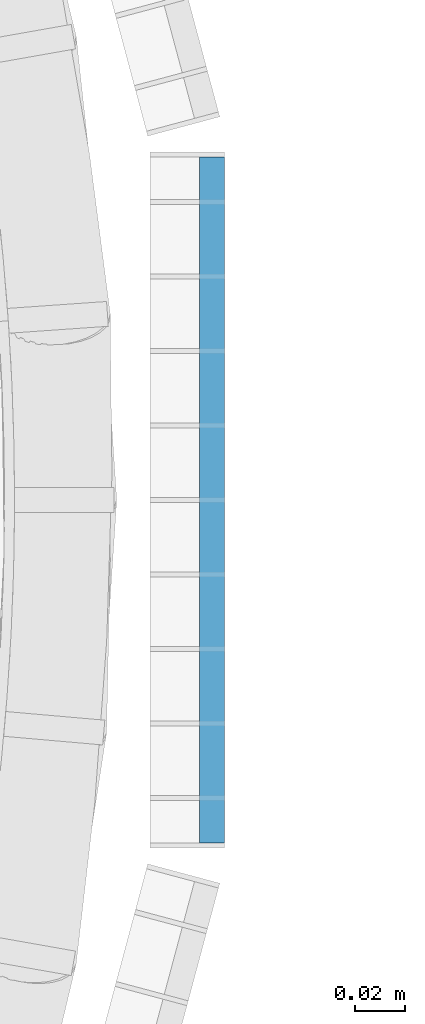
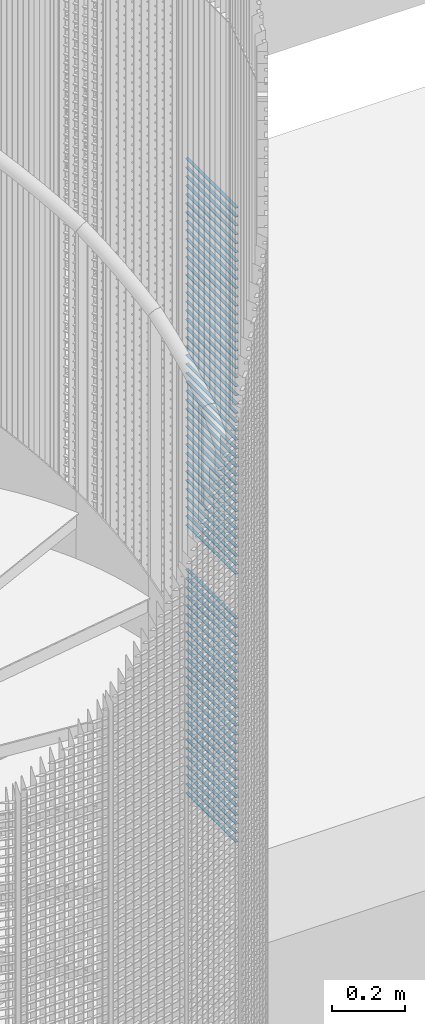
# One storey, part 272 of 1148: 68 beams, 1 element without a shape of its own.
"""IFC2X3 building model written with IfcOpenShell, lengths in millimetres."""

from ifc_helpers import new_model, si_unit, frame, origin_with_axes, origin_2d_with_axis, place, context, subcontext, project, spatial, rectangle, extrude, material, type_object, element, aggregate, save


model = new_model("IFC2X3")

# Units and contexts
model_context = context("Model", 3, precision=1e-05, world=origin_with_axes())
body_context = subcontext(model_context, "Body", "Model", "MODEL_VIEW")
ifc_project = project(units=[si_unit("LENGTHUNIT", "METRE", prefix="MILLI"), si_unit("AREAUNIT", "SQUARE_METRE"), si_unit("VOLUMEUNIT", "CUBIC_METRE"), si_unit("MASSUNIT", "GRAM", prefix="KILO"), si_unit("TIMEUNIT", "SECOND"), si_unit("PLANEANGLEUNIT", "RADIAN"), si_unit("SOLIDANGLEUNIT", "STERADIAN"), si_unit("THERMODYNAMICTEMPERATUREUNIT", "DEGREE_CELSIUS"), si_unit("LUMINOUSINTENSITYUNIT", "LUMEN")], contexts=[model_context])

# Site, building, storey
site_placement = place(None, origin_with_axes())
site = spatial("IfcSite", under=ifc_project, at=site_placement, Name="Undefined", CompositionType="ELEMENT")
building_placement = place(site_placement, origin_with_axes())
building = spatial("IfcBuilding", under=site, at=building_placement, Name="Undefined", CompositionType="ELEMENT")
storey_placement = place(building_placement, origin_with_axes())
storey = spatial("IfcBuildingStorey", under=building, at=storey_placement, Name="Undefined", CompositionType="ELEMENT", Elevation=0.0)

# Assembly, beams
assembly_placement = place(storey_placement, origin_with_axes())
assembly = element("IfcElementAssembly", 1, at=assembly_placement, inside=storey, Name="BORDURE", AssemblyPlace="NOTDEFINED", PredefinedType="NOTDEFINED")
ifc_material = material(Name="STEEL/S235JR")
beam_type = type_object("IfcBeamType", Name="PL2*10", PredefinedType="NOTDEFINED")
beam_1_placement = place(assembly_placement, frame((1113.47999999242, -137.996003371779, 14370.0), z_axis=(1.0, 0.0, 0.0), x_axis=(0.0, 1.0, 0.0)))
beam_1 = element("IfcBeam", 2, at=beam_1_placement, type_object=beam_type, material=ifc_material, Name="ENTRETOISE", context=body_context, shape_type="SweptSolid", body=[
    extrude(rectangle(XDim=2.0, YDim=10.0, at=origin_2d_with_axis()), frame((275.999999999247, 9.09494701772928e-13, 1.53210777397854e-14), z_axis=(-1.0, 0.0, 0.0), x_axis=(0.0, -1.0, 0.0)), (0.0, 0.0, 1.0), 276.0),
])
beam_2_placement = place(assembly_placement, frame((1113.47999999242, -137.996003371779, 14340.0), z_axis=(1.0, 0.0, 0.0), x_axis=(0.0, 1.0, 0.0)))
beam_2 = element("IfcBeam", 3, at=beam_2_placement, type_object=beam_type, material=ifc_material, Name="ENTRETOISE", context=body_context, shape_type="SweptSolid", body=[
    extrude(rectangle(XDim=2.0, YDim=10.0, at=origin_2d_with_axis()), frame((275.999999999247, 9.09494701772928e-13, 1.53210777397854e-14), z_axis=(-1.0, 0.0, 0.0), x_axis=(0.0, -1.0, 0.0)), (0.0, 0.0, 1.0), 276.0),
])
beam_3_placement = place(assembly_placement, frame((1113.47999999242, -137.996003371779, 14310.0), z_axis=(1.0, 0.0, 0.0), x_axis=(0.0, 1.0, 0.0)))
beam_3 = element("IfcBeam", 4, at=beam_3_placement, type_object=beam_type, material=ifc_material, Name="ENTRETOISE", context=body_context, shape_type="SweptSolid", body=[
    extrude(rectangle(XDim=2.0, YDim=10.0, at=origin_2d_with_axis()), frame((275.999999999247, 9.09494701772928e-13, 1.53210777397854e-14), z_axis=(-1.0, 0.0, 0.0), x_axis=(0.0, -1.0, 0.0)), (0.0, 0.0, 1.0), 276.0),
])
beam_4_placement = place(assembly_placement, frame((1113.47999999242, -137.996003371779, 14280.0), z_axis=(1.0, 0.0, 0.0), x_axis=(0.0, 1.0, 0.0)))
beam_4 = element("IfcBeam", 5, at=beam_4_placement, type_object=beam_type, material=ifc_material, Name="ENTRETOISE", context=body_context, shape_type="SweptSolid", body=[
    extrude(rectangle(XDim=2.0, YDim=10.0, at=origin_2d_with_axis()), frame((275.999999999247, 9.09494701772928e-13, 1.53210777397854e-14), z_axis=(-1.0, 0.0, 0.0), x_axis=(0.0, -1.0, 0.0)), (0.0, 0.0, 1.0), 276.0),
])
beam_5_placement = place(assembly_placement, frame((1113.47999999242, -137.996003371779, 14250.0), z_axis=(1.0, 0.0, 0.0), x_axis=(0.0, 1.0, 0.0)))
beam_5 = element("IfcBeam", 6, at=beam_5_placement, type_object=beam_type, material=ifc_material, Name="ENTRETOISE", context=body_context, shape_type="SweptSolid", body=[
    extrude(rectangle(XDim=2.0, YDim=10.0, at=origin_2d_with_axis()), frame((275.999999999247, 9.09494701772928e-13, 1.53210777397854e-14), z_axis=(-1.0, 0.0, 0.0), x_axis=(0.0, -1.0, 0.0)), (0.0, 0.0, 1.0), 276.0),
])
beam_6_placement = place(assembly_placement, frame((1113.47999999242, -137.996003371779, 14220.0), z_axis=(1.0, 0.0, 0.0), x_axis=(0.0, 1.0, 0.0)))
beam_6 = element("IfcBeam", 7, at=beam_6_placement, type_object=beam_type, material=ifc_material, Name="ENTRETOISE", context=body_context, shape_type="SweptSolid", body=[
    extrude(rectangle(XDim=2.0, YDim=10.0, at=origin_2d_with_axis()), frame((275.999999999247, 9.09494701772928e-13, 1.53210777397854e-14), z_axis=(-1.0, 0.0, 0.0), x_axis=(0.0, -1.0, 0.0)), (0.0, 0.0, 1.0), 276.0),
])
beam_7_placement = place(assembly_placement, frame((1113.47999999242, -137.996003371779, 14190.0), z_axis=(1.0, 0.0, 0.0), x_axis=(0.0, 1.0, 0.0)))
beam_7 = element("IfcBeam", 8, at=beam_7_placement, type_object=beam_type, material=ifc_material, Name="ENTRETOISE", context=body_context, shape_type="SweptSolid", body=[
    extrude(rectangle(XDim=2.0, YDim=10.0, at=origin_2d_with_axis()), frame((275.999999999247, 9.09494701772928e-13, 1.53210777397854e-14), z_axis=(-1.0, 0.0, 0.0), x_axis=(0.0, -1.0, 0.0)), (0.0, 0.0, 1.0), 276.0),
])
beam_8_placement = place(assembly_placement, frame((1113.47999999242, -137.996003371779, 14160.0), z_axis=(1.0, 0.0, 0.0), x_axis=(0.0, 1.0, 0.0)))
beam_8 = element("IfcBeam", 9, at=beam_8_placement, type_object=beam_type, material=ifc_material, Name="ENTRETOISE", context=body_context, shape_type="SweptSolid", body=[
    extrude(rectangle(XDim=2.0, YDim=10.0, at=origin_2d_with_axis()), frame((275.999999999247, 9.09494701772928e-13, 1.53210777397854e-14), z_axis=(-1.0, 0.0, 0.0), x_axis=(0.0, -1.0, 0.0)), (0.0, 0.0, 1.0), 276.0),
])
beam_9_placement = place(assembly_placement, frame((1113.47999999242, -137.996003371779, 14130.0), z_axis=(1.0, 0.0, 0.0), x_axis=(0.0, 1.0, 0.0)))
beam_9 = element("IfcBeam", 10, at=beam_9_placement, type_object=beam_type, material=ifc_material, Name="ENTRETOISE", context=body_context, shape_type="SweptSolid", body=[
    extrude(rectangle(XDim=2.0, YDim=10.0, at=origin_2d_with_axis()), frame((275.999999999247, 9.09494701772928e-13, 1.53210777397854e-14), z_axis=(-1.0, 0.0, 0.0), x_axis=(0.0, -1.0, 0.0)), (0.0, 0.0, 1.0), 276.0),
])
beam_10_placement = place(assembly_placement, frame((1113.47999999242, -137.996003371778, 14100.0), z_axis=(1.0, 0.0, 0.0), x_axis=(0.0, 1.0, 0.0)))
beam_10 = element("IfcBeam", 11, at=beam_10_placement, type_object=beam_type, material=ifc_material, Name="ENTRETOISE", context=body_context, shape_type="SweptSolid", body=[
    extrude(rectangle(XDim=2.0, YDim=10.0, at=origin_2d_with_axis()), frame((275.999999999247, 9.09494701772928e-13, 1.53210777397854e-14), z_axis=(-1.0, 0.0, 0.0), x_axis=(0.0, -1.0, 0.0)), (0.0, 0.0, 1.0), 276.0),
])
beam_11_placement = place(assembly_placement, frame((1113.47999999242, -137.996003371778, 14070.0), z_axis=(1.0, 0.0, 0.0), x_axis=(0.0, 1.0, 0.0)))
beam_11 = element("IfcBeam", 12, at=beam_11_placement, type_object=beam_type, material=ifc_material, Name="ENTRETOISE", context=body_context, shape_type="SweptSolid", body=[
    extrude(rectangle(XDim=2.0, YDim=10.0, at=origin_2d_with_axis()), frame((275.999999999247, 9.09494701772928e-13, 1.53210777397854e-14), z_axis=(-1.0, 0.0, 0.0), x_axis=(0.0, -1.0, 0.0)), (0.0, 0.0, 1.0), 276.0),
])
beam_12_placement = place(assembly_placement, frame((1113.47999999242, -137.996003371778, 14040.0), z_axis=(1.0, 0.0, 0.0), x_axis=(0.0, 1.0, 0.0)))
beam_12 = element("IfcBeam", 13, at=beam_12_placement, type_object=beam_type, material=ifc_material, Name="ENTRETOISE", context=body_context, shape_type="SweptSolid", body=[
    extrude(rectangle(XDim=2.0, YDim=10.0, at=origin_2d_with_axis()), frame((275.999999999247, 9.09494701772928e-13, 1.53210777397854e-14), z_axis=(-1.0, 0.0, 0.0), x_axis=(0.0, -1.0, 0.0)), (0.0, 0.0, 1.0), 276.0),
])
beam_13_placement = place(assembly_placement, frame((1113.47999999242, -137.996003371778, 14010.0), z_axis=(1.0, 0.0, 0.0), x_axis=(0.0, 1.0, 0.0)))
beam_13 = element("IfcBeam", 14, at=beam_13_placement, type_object=beam_type, material=ifc_material, Name="ENTRETOISE", context=body_context, shape_type="SweptSolid", body=[
    extrude(rectangle(XDim=2.0, YDim=10.0, at=origin_2d_with_axis()), frame((275.999999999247, 9.09494701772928e-13, 1.53210777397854e-14), z_axis=(-1.0, 0.0, 0.0), x_axis=(0.0, -1.0, 0.0)), (0.0, 0.0, 1.0), 276.0),
])
beam_14_placement = place(assembly_placement, frame((1113.47999999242, -137.996003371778, 13980.0), z_axis=(1.0, 0.0, 0.0), x_axis=(0.0, 1.0, 0.0)))
beam_14 = element("IfcBeam", 15, at=beam_14_placement, type_object=beam_type, material=ifc_material, Name="ENTRETOISE", context=body_context, shape_type="SweptSolid", body=[
    extrude(rectangle(XDim=2.0, YDim=10.0, at=origin_2d_with_axis()), frame((275.999999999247, 9.09494701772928e-13, 1.53210777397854e-14), z_axis=(-1.0, 0.0, 0.0), x_axis=(0.0, -1.0, 0.0)), (0.0, 0.0, 1.0), 276.0),
])
beam_15_placement = place(assembly_placement, frame((1113.47999999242, -137.996003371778, 13950.0), z_axis=(1.0, 0.0, 0.0), x_axis=(0.0, 1.0, 0.0)))
beam_15 = element("IfcBeam", 16, at=beam_15_placement, type_object=beam_type, material=ifc_material, Name="ENTRETOISE", context=body_context, shape_type="SweptSolid", body=[
    extrude(rectangle(XDim=2.0, YDim=10.0, at=origin_2d_with_axis()), frame((275.999999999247, 9.09494701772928e-13, 1.53210777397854e-14), z_axis=(-1.0, 0.0, 0.0), x_axis=(0.0, -1.0, 0.0)), (0.0, 0.0, 1.0), 276.0),
])
beam_16_placement = place(assembly_placement, frame((1113.47999999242, -137.996003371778, 13920.0), z_axis=(1.0, 0.0, 0.0), x_axis=(0.0, 1.0, 0.0)))
beam_16 = element("IfcBeam", 17, at=beam_16_placement, type_object=beam_type, material=ifc_material, Name="ENTRETOISE", context=body_context, shape_type="SweptSolid", body=[
    extrude(rectangle(XDim=2.0, YDim=10.0, at=origin_2d_with_axis()), frame((275.999999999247, 9.09494701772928e-13, 1.53210777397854e-14), z_axis=(-1.0, 0.0, 0.0), x_axis=(0.0, -1.0, 0.0)), (0.0, 0.0, 1.0), 276.0),
])
beam_17_placement = place(assembly_placement, frame((1113.47999999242, -137.996003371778, 13890.0), z_axis=(1.0, 0.0, 0.0), x_axis=(0.0, 1.0, 0.0)))
beam_17 = element("IfcBeam", 18, at=beam_17_placement, type_object=beam_type, material=ifc_material, Name="ENTRETOISE", context=body_context, shape_type="SweptSolid", body=[
    extrude(rectangle(XDim=2.0, YDim=10.0, at=origin_2d_with_axis()), frame((275.999999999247, 9.09494701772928e-13, 1.53210777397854e-14), z_axis=(-1.0, 0.0, 0.0), x_axis=(0.0, -1.0, 0.0)), (0.0, 0.0, 1.0), 276.0),
])
beam_18_placement = place(assembly_placement, frame((1113.47999999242, -137.996003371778, 13860.0), z_axis=(1.0, 0.0, 0.0), x_axis=(0.0, 1.0, 0.0)))
beam_18 = element("IfcBeam", 19, at=beam_18_placement, type_object=beam_type, material=ifc_material, Name="ENTRETOISE", context=body_context, shape_type="SweptSolid", body=[
    extrude(rectangle(XDim=2.0, YDim=10.0, at=origin_2d_with_axis()), frame((275.999999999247, 9.09494701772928e-13, 1.53210777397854e-14), z_axis=(-1.0, 0.0, 0.0), x_axis=(0.0, -1.0, 0.0)), (0.0, 0.0, 1.0), 276.0),
])
beam_19_placement = place(assembly_placement, frame((1113.47999999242, -137.996003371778, 13830.0), z_axis=(1.0, 0.0, 0.0), x_axis=(0.0, 1.0, 0.0)))
beam_19 = element("IfcBeam", 20, at=beam_19_placement, type_object=beam_type, material=ifc_material, Name="ENTRETOISE", context=body_context, shape_type="SweptSolid", body=[
    extrude(rectangle(XDim=2.0, YDim=10.0, at=origin_2d_with_axis()), frame((275.999999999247, 9.09494701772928e-13, 1.53210777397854e-14), z_axis=(-1.0, 0.0, 0.0), x_axis=(0.0, -1.0, 0.0)), (0.0, 0.0, 1.0), 276.0),
])
beam_20_placement = place(assembly_placement, frame((1113.47999999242, -137.996003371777, 13800.0), z_axis=(1.0, 0.0, 0.0), x_axis=(0.0, 1.0, 0.0)))
beam_20 = element("IfcBeam", 21, at=beam_20_placement, type_object=beam_type, material=ifc_material, Name="ENTRETOISE", context=body_context, shape_type="SweptSolid", body=[
    extrude(rectangle(XDim=2.0, YDim=10.0, at=origin_2d_with_axis()), frame((275.999999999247, 9.09494701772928e-13, 1.53210777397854e-14), z_axis=(-1.0, 0.0, 0.0), x_axis=(0.0, -1.0, 0.0)), (0.0, 0.0, 1.0), 276.0),
])
beam_21_placement = place(assembly_placement, frame((1113.47999999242, -137.996003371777, 13770.0), z_axis=(1.0, 0.0, 0.0), x_axis=(0.0, 1.0, 0.0)))
beam_21 = element("IfcBeam", 22, at=beam_21_placement, type_object=beam_type, material=ifc_material, Name="ENTRETOISE", context=body_context, shape_type="SweptSolid", body=[
    extrude(rectangle(XDim=2.0, YDim=10.0, at=origin_2d_with_axis()), frame((275.999999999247, 9.09494701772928e-13, 1.53210777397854e-14), z_axis=(-1.0, 0.0, 0.0), x_axis=(0.0, -1.0, 0.0)), (0.0, 0.0, 1.0), 276.0),
])
beam_22_placement = place(assembly_placement, frame((1113.47999999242, -137.996003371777, 13740.0), z_axis=(1.0, 0.0, 0.0), x_axis=(0.0, 1.0, 0.0)))
beam_22 = element("IfcBeam", 23, at=beam_22_placement, type_object=beam_type, material=ifc_material, Name="ENTRETOISE", context=body_context, shape_type="SweptSolid", body=[
    extrude(rectangle(XDim=2.0, YDim=10.0, at=origin_2d_with_axis()), frame((275.999999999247, 9.09494701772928e-13, 1.53210777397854e-14), z_axis=(-1.0, 0.0, 0.0), x_axis=(0.0, -1.0, 0.0)), (0.0, 0.0, 1.0), 276.0),
])
beam_23_placement = place(assembly_placement, frame((1113.47999999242, -137.996003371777, 13710.0), z_axis=(1.0, 0.0, 0.0), x_axis=(0.0, 1.0, 0.0)))
beam_23 = element("IfcBeam", 24, at=beam_23_placement, type_object=beam_type, material=ifc_material, Name="ENTRETOISE", context=body_context, shape_type="SweptSolid", body=[
    extrude(rectangle(XDim=2.0, YDim=10.0, at=origin_2d_with_axis()), frame((275.999999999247, 9.09494701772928e-13, 1.53210777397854e-14), z_axis=(-1.0, 0.0, 0.0), x_axis=(0.0, -1.0, 0.0)), (0.0, 0.0, 1.0), 276.0),
])
beam_24_placement = place(assembly_placement, frame((1113.47999999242, -137.996003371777, 13680.0), z_axis=(1.0, 0.0, 0.0), x_axis=(0.0, 1.0, 0.0)))
beam_24 = element("IfcBeam", 25, at=beam_24_placement, type_object=beam_type, material=ifc_material, Name="ENTRETOISE", context=body_context, shape_type="SweptSolid", body=[
    extrude(rectangle(XDim=2.0, YDim=10.0, at=origin_2d_with_axis()), frame((275.999999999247, 9.09494701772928e-13, 1.53210777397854e-14), z_axis=(-1.0, 0.0, 0.0), x_axis=(0.0, -1.0, 0.0)), (0.0, 0.0, 1.0), 276.0),
])
beam_25_placement = place(assembly_placement, frame((1113.47999999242, -137.996003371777, 13650.0), z_axis=(1.0, 0.0, 0.0), x_axis=(0.0, 1.0, 0.0)))
beam_25 = element("IfcBeam", 26, at=beam_25_placement, type_object=beam_type, material=ifc_material, Name="ENTRETOISE", context=body_context, shape_type="SweptSolid", body=[
    extrude(rectangle(XDim=2.0, YDim=10.0, at=origin_2d_with_axis()), frame((275.999999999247, 9.09494701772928e-13, 1.53210777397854e-14), z_axis=(-1.0, 0.0, 0.0), x_axis=(0.0, -1.0, 0.0)), (0.0, 0.0, 1.0), 276.0),
])
beam_26_placement = place(assembly_placement, frame((1113.47999999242, -137.996003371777, 13620.0), z_axis=(1.0, 0.0, 0.0), x_axis=(0.0, 1.0, 0.0)))
beam_26 = element("IfcBeam", 27, at=beam_26_placement, type_object=beam_type, material=ifc_material, Name="ENTRETOISE", context=body_context, shape_type="SweptSolid", body=[
    extrude(rectangle(XDim=2.0, YDim=10.0, at=origin_2d_with_axis()), frame((275.999999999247, 9.09494701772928e-13, 1.53210777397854e-14), z_axis=(-1.0, 0.0, 0.0), x_axis=(0.0, -1.0, 0.0)), (0.0, 0.0, 1.0), 276.0),
])
beam_27_placement = place(assembly_placement, frame((1113.47999999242, -137.996003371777, 13590.0), z_axis=(1.0, 0.0, 0.0), x_axis=(0.0, 1.0, 0.0)))
beam_27 = element("IfcBeam", 28, at=beam_27_placement, type_object=beam_type, material=ifc_material, Name="ENTRETOISE", context=body_context, shape_type="SweptSolid", body=[
    extrude(rectangle(XDim=2.0, YDim=10.0, at=origin_2d_with_axis()), frame((275.999999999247, 9.09494701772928e-13, 1.53210777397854e-14), z_axis=(-1.0, 0.0, 0.0), x_axis=(0.0, -1.0, 0.0)), (0.0, 0.0, 1.0), 276.0),
])
beam_28_placement = place(assembly_placement, frame((1113.47999999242, -137.996003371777, 13560.0), z_axis=(1.0, 0.0, 0.0), x_axis=(0.0, 1.0, 0.0)))
beam_28 = element("IfcBeam", 29, at=beam_28_placement, type_object=beam_type, material=ifc_material, Name="ENTRETOISE", context=body_context, shape_type="SweptSolid", body=[
    extrude(rectangle(XDim=2.0, YDim=10.0, at=origin_2d_with_axis()), frame((275.999999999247, 9.09494701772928e-13, 1.53210777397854e-14), z_axis=(-1.0, 0.0, 0.0), x_axis=(0.0, -1.0, 0.0)), (0.0, 0.0, 1.0), 276.0),
])
beam_29_placement = place(assembly_placement, frame((1113.47999999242, -137.996003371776, 13530.0), z_axis=(1.0, 0.0, 0.0), x_axis=(0.0, 1.0, 0.0)))
beam_29 = element("IfcBeam", 30, at=beam_29_placement, type_object=beam_type, material=ifc_material, Name="ENTRETOISE", context=body_context, shape_type="SweptSolid", body=[
    extrude(rectangle(XDim=2.0, YDim=10.0, at=origin_2d_with_axis()), frame((275.999999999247, 9.09494701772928e-13, 1.53210777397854e-14), z_axis=(-1.0, 0.0, 0.0), x_axis=(0.0, -1.0, 0.0)), (0.0, 0.0, 1.0), 276.0),
])
beam_30_placement = place(assembly_placement, frame((1113.47999999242, -137.996003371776, 13500.0), z_axis=(1.0, 0.0, 0.0), x_axis=(0.0, 1.0, 0.0)))
beam_30 = element("IfcBeam", 31, at=beam_30_placement, type_object=beam_type, material=ifc_material, Name="ENTRETOISE", context=body_context, shape_type="SweptSolid", body=[
    extrude(rectangle(XDim=2.0, YDim=10.0, at=origin_2d_with_axis()), frame((275.999999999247, 9.09494701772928e-13, 1.53210777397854e-14), z_axis=(-1.0, 0.0, 0.0), x_axis=(0.0, -1.0, 0.0)), (0.0, 0.0, 1.0), 276.0),
])
beam_31_placement = place(assembly_placement, frame((1113.47999999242, -137.996003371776, 13470.0), z_axis=(1.0, 0.0, 0.0), x_axis=(0.0, 1.0, 0.0)))
beam_31 = element("IfcBeam", 32, at=beam_31_placement, type_object=beam_type, material=ifc_material, Name="ENTRETOISE", context=body_context, shape_type="SweptSolid", body=[
    extrude(rectangle(XDim=2.0, YDim=10.0, at=origin_2d_with_axis()), frame((275.999999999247, 9.09494701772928e-13, 1.53210777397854e-14), z_axis=(-1.0, 0.0, 0.0), x_axis=(0.0, -1.0, 0.0)), (0.0, 0.0, 1.0), 276.0),
])
beam_32_placement = place(assembly_placement, frame((1113.47999999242, -137.996003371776, 13440.0), z_axis=(1.0, 0.0, 0.0), x_axis=(0.0, 1.0, 0.0)))
beam_32 = element("IfcBeam", 33, at=beam_32_placement, type_object=beam_type, material=ifc_material, Name="ENTRETOISE", context=body_context, shape_type="SweptSolid", body=[
    extrude(rectangle(XDim=2.0, YDim=10.0, at=origin_2d_with_axis()), frame((275.999999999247, 9.09494701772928e-13, 1.53210777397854e-14), z_axis=(-1.0, 0.0, 0.0), x_axis=(0.0, -1.0, 0.0)), (0.0, 0.0, 1.0), 276.0),
])
beam_33_placement = place(assembly_placement, frame((1113.47999999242, -137.996003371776, 13410.0), z_axis=(1.0, 0.0, 0.0), x_axis=(0.0, 1.0, 0.0)))
beam_33 = element("IfcBeam", 34, at=beam_33_placement, type_object=beam_type, material=ifc_material, Name="ENTRETOISE", context=body_context, shape_type="SweptSolid", body=[
    extrude(rectangle(XDim=2.0, YDim=10.0, at=origin_2d_with_axis()), frame((275.999999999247, 9.09494701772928e-13, 1.53210777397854e-14), z_axis=(-1.0, 0.0, 0.0), x_axis=(0.0, -1.0, 0.0)), (0.0, 0.0, 1.0), 276.0),
])
beam_34_placement = place(assembly_placement, frame((1113.47999999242, -137.996003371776, 13380.0), z_axis=(1.0, 0.0, 0.0), x_axis=(0.0, 1.0, 0.0)))
beam_34 = element("IfcBeam", 35, at=beam_34_placement, type_object=beam_type, material=ifc_material, Name="ENTRETOISE", context=body_context, shape_type="SweptSolid", body=[
    extrude(rectangle(XDim=2.0, YDim=10.0, at=origin_2d_with_axis()), frame((275.999999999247, 9.09494701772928e-13, 1.53210777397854e-14), z_axis=(-1.0, 0.0, 0.0), x_axis=(0.0, -1.0, 0.0)), (0.0, 0.0, 1.0), 276.0),
])
beam_35_placement = place(assembly_placement, frame((1113.47999999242, -137.996003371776, 13350.0), z_axis=(1.0, 0.0, 0.0), x_axis=(0.0, 1.0, 0.0)))
beam_35 = element("IfcBeam", 36, at=beam_35_placement, type_object=beam_type, material=ifc_material, Name="ENTRETOISE", context=body_context, shape_type="SweptSolid", body=[
    extrude(rectangle(XDim=2.0, YDim=10.0, at=origin_2d_with_axis()), frame((275.999999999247, 9.09494701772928e-13, 1.53210777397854e-14), z_axis=(-1.0, 0.0, 0.0), x_axis=(0.0, -1.0, 0.0)), (0.0, 0.0, 1.0), 276.0),
])
beam_36_placement = place(assembly_placement, frame((1113.47999999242, -137.996003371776, 13320.0), z_axis=(1.0, 0.0, 0.0), x_axis=(0.0, 1.0, 0.0)))
beam_36 = element("IfcBeam", 37, at=beam_36_placement, type_object=beam_type, material=ifc_material, Name="ENTRETOISE", context=body_context, shape_type="SweptSolid", body=[
    extrude(rectangle(XDim=2.0, YDim=10.0, at=origin_2d_with_axis()), frame((275.999999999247, 9.09494701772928e-13, 1.53210777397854e-14), z_axis=(-1.0, 0.0, 0.0), x_axis=(0.0, -1.0, 0.0)), (0.0, 0.0, 1.0), 276.0),
])
beam_37_placement = place(assembly_placement, frame((1113.47999999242, -137.996003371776, 13290.0), z_axis=(1.0, 0.0, 0.0), x_axis=(0.0, 1.0, 0.0)))
beam_37 = element("IfcBeam", 38, at=beam_37_placement, type_object=beam_type, material=ifc_material, Name="ENTRETOISE", context=body_context, shape_type="SweptSolid", body=[
    extrude(rectangle(XDim=2.0, YDim=10.0, at=origin_2d_with_axis()), frame((275.999999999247, 9.09494701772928e-13, 1.53210777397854e-14), z_axis=(-1.0, 0.0, 0.0), x_axis=(0.0, -1.0, 0.0)), (0.0, 0.0, 1.0), 276.0),
])
beam_38_placement = place(assembly_placement, frame((1113.47999999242, -137.996003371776, 13260.0), z_axis=(1.0, 0.0, 0.0), x_axis=(0.0, 1.0, 0.0)))
beam_38 = element("IfcBeam", 39, at=beam_38_placement, type_object=beam_type, material=ifc_material, Name="ENTRETOISE", context=body_context, shape_type="SweptSolid", body=[
    extrude(rectangle(XDim=2.0, YDim=10.0, at=origin_2d_with_axis()), frame((275.999999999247, 9.09494701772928e-13, 1.53210777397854e-14), z_axis=(-1.0, 0.0, 0.0), x_axis=(0.0, -1.0, 0.0)), (0.0, 0.0, 1.0), 276.0),
])
beam_39_placement = place(assembly_placement, frame((1113.47999999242, -137.996003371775, 13230.0), z_axis=(1.0, 0.0, 0.0), x_axis=(0.0, 1.0, 0.0)))
beam_39 = element("IfcBeam", 40, at=beam_39_placement, type_object=beam_type, material=ifc_material, Name="ENTRETOISE", context=body_context, shape_type="SweptSolid", body=[
    extrude(rectangle(XDim=2.0, YDim=10.0, at=origin_2d_with_axis()), frame((275.999999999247, 9.09494701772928e-13, 1.53210777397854e-14), z_axis=(-1.0, 0.0, 0.0), x_axis=(0.0, -1.0, 0.0)), (0.0, 0.0, 1.0), 276.0),
])
beam_40_placement = place(assembly_placement, frame((1113.47999999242, -137.996003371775, 13200.0), z_axis=(1.0, 0.0, 0.0), x_axis=(0.0, 1.0, 0.0)))
beam_40 = element("IfcBeam", 41, at=beam_40_placement, type_object=beam_type, material=ifc_material, Name="ENTRETOISE", context=body_context, shape_type="SweptSolid", body=[
    extrude(rectangle(XDim=2.0, YDim=10.0, at=origin_2d_with_axis()), frame((275.999999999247, 9.09494701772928e-13, 1.53210777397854e-14), z_axis=(-1.0, 0.0, 0.0), x_axis=(0.0, -1.0, 0.0)), (0.0, 0.0, 1.0), 276.0),
])
beam_41_placement = place(assembly_placement, frame((1113.47999999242, -137.996003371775, 13170.0), z_axis=(1.0, 0.0, 0.0), x_axis=(0.0, 1.0, 0.0)))
beam_41 = element("IfcBeam", 42, at=beam_41_placement, type_object=beam_type, material=ifc_material, Name="ENTRETOISE", context=body_context, shape_type="SweptSolid", body=[
    extrude(rectangle(XDim=2.0, YDim=10.0, at=origin_2d_with_axis()), frame((275.999999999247, 9.09494701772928e-13, 1.53210777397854e-14), z_axis=(-1.0, 0.0, 0.0), x_axis=(0.0, -1.0, 0.0)), (0.0, 0.0, 1.0), 276.0),
])
beam_42_placement = place(assembly_placement, frame((1113.47999999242, -137.996003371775, 13140.0), z_axis=(1.0, 0.0, 0.0), x_axis=(0.0, 1.0, 0.0)))
beam_42 = element("IfcBeam", 43, at=beam_42_placement, type_object=beam_type, material=ifc_material, Name="ENTRETOISE", context=body_context, shape_type="SweptSolid", body=[
    extrude(rectangle(XDim=2.0, YDim=10.0, at=origin_2d_with_axis()), frame((275.999999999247, 9.09494701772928e-13, 1.53210777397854e-14), z_axis=(-1.0, 0.0, 0.0), x_axis=(0.0, -1.0, 0.0)), (0.0, 0.0, 1.0), 276.0),
])
beam_43_placement = place(assembly_placement, frame((1113.47999999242, -137.996003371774, 12720.0), z_axis=(1.0, 0.0, 0.0), x_axis=(0.0, 1.0, 0.0)))
beam_43 = element("IfcBeam", 44, at=beam_43_placement, type_object=beam_type, material=ifc_material, Name="ENTRETOISE", context=body_context, shape_type="SweptSolid", body=[
    extrude(rectangle(XDim=2.0, YDim=10.0, at=origin_2d_with_axis()), frame((275.999999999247, 9.09494701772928e-13, 1.53210777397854e-14), z_axis=(-1.0, 0.0, 0.0), x_axis=(0.0, -1.0, 0.0)), (0.0, 0.0, 1.0), 276.0),
])
beam_44_placement = place(assembly_placement, frame((1113.47999999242, -137.996003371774, 12690.0), z_axis=(1.0, 0.0, 0.0), x_axis=(0.0, 1.0, 0.0)))
beam_44 = element("IfcBeam", 45, at=beam_44_placement, type_object=beam_type, material=ifc_material, Name="ENTRETOISE", context=body_context, shape_type="SweptSolid", body=[
    extrude(rectangle(XDim=2.0, YDim=10.0, at=origin_2d_with_axis()), frame((275.999999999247, 9.09494701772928e-13, 1.53210777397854e-14), z_axis=(-1.0, 0.0, 0.0), x_axis=(0.0, -1.0, 0.0)), (0.0, 0.0, 1.0), 276.0),
])
beam_45_placement = place(assembly_placement, frame((1113.47999999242, -137.996003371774, 12750.0), z_axis=(1.0, 0.0, 0.0), x_axis=(0.0, 1.0, 0.0)))
beam_45 = element("IfcBeam", 46, at=beam_45_placement, type_object=beam_type, material=ifc_material, Name="ENTRETOISE", context=body_context, shape_type="SweptSolid", body=[
    extrude(rectangle(XDim=2.0, YDim=10.0, at=origin_2d_with_axis()), frame((275.999999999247, 9.09494701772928e-13, 1.53210777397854e-14), z_axis=(-1.0, 0.0, 0.0), x_axis=(0.0, -1.0, 0.0)), (0.0, 0.0, 1.0), 276.0),
])
beam_46_placement = place(assembly_placement, frame((1113.47999999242, -137.996003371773, 12660.0), z_axis=(1.0, 0.0, 0.0), x_axis=(0.0, 1.0, 0.0)))
beam_46 = element("IfcBeam", 47, at=beam_46_placement, type_object=beam_type, material=ifc_material, Name="ENTRETOISE", context=body_context, shape_type="SweptSolid", body=[
    extrude(rectangle(XDim=2.0, YDim=10.0, at=origin_2d_with_axis()), frame((275.999999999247, 9.09494701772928e-13, 1.53210777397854e-14), z_axis=(-1.0, 0.0, 0.0), x_axis=(0.0, -1.0, 0.0)), (0.0, 0.0, 1.0), 276.0),
])
beam_47_placement = place(assembly_placement, frame((1113.47999999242, -137.996003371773, 12630.0), z_axis=(1.0, 0.0, 0.0), x_axis=(0.0, 1.0, 0.0)))
beam_47 = element("IfcBeam", 48, at=beam_47_placement, type_object=beam_type, material=ifc_material, Name="ENTRETOISE", context=body_context, shape_type="SweptSolid", body=[
    extrude(rectangle(XDim=2.0, YDim=10.0, at=origin_2d_with_axis()), frame((275.999999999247, 9.09494701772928e-13, 1.53210777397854e-14), z_axis=(-1.0, 0.0, 0.0), x_axis=(0.0, -1.0, 0.0)), (0.0, 0.0, 1.0), 276.0),
])
beam_48_placement = place(assembly_placement, frame((1113.47999999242, -137.996003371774, 12780.0), z_axis=(1.0, 0.0, 0.0), x_axis=(0.0, 1.0, 0.0)))
beam_48 = element("IfcBeam", 49, at=beam_48_placement, type_object=beam_type, material=ifc_material, Name="ENTRETOISE", context=body_context, shape_type="SweptSolid", body=[
    extrude(rectangle(XDim=2.0, YDim=10.0, at=origin_2d_with_axis()), frame((275.999999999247, 9.09494701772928e-13, 1.53210777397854e-14), z_axis=(-1.0, 0.0, 0.0), x_axis=(0.0, -1.0, 0.0)), (0.0, 0.0, 1.0), 276.0),
])
beam_49_placement = place(assembly_placement, frame((1113.47999999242, -137.996003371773, 12600.0), z_axis=(1.0, 0.0, 0.0), x_axis=(0.0, 1.0, 0.0)))
beam_49 = element("IfcBeam", 50, at=beam_49_placement, type_object=beam_type, material=ifc_material, Name="ENTRETOISE", context=body_context, shape_type="SweptSolid", body=[
    extrude(rectangle(XDim=2.0, YDim=10.0, at=origin_2d_with_axis()), frame((275.999999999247, 9.09494701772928e-13, 1.53210777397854e-14), z_axis=(-1.0, 0.0, 0.0), x_axis=(0.0, -1.0, 0.0)), (0.0, 0.0, 1.0), 276.0),
])
beam_50_placement = place(assembly_placement, frame((1113.47999999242, -137.996003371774, 12810.0), z_axis=(1.0, 0.0, 0.0), x_axis=(0.0, 1.0, 0.0)))
beam_50 = element("IfcBeam", 51, at=beam_50_placement, type_object=beam_type, material=ifc_material, Name="ENTRETOISE", context=body_context, shape_type="SweptSolid", body=[
    extrude(rectangle(XDim=2.0, YDim=10.0, at=origin_2d_with_axis()), frame((275.999999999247, 9.09494701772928e-13, 1.53210777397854e-14), z_axis=(-1.0, 0.0, 0.0), x_axis=(0.0, -1.0, 0.0)), (0.0, 0.0, 1.0), 276.0),
])
beam_51_placement = place(assembly_placement, frame((1113.47999999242, -137.996003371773, 12570.0), z_axis=(1.0, 0.0, 0.0), x_axis=(0.0, 1.0, 0.0)))
beam_51 = element("IfcBeam", 52, at=beam_51_placement, type_object=beam_type, material=ifc_material, Name="ENTRETOISE", context=body_context, shape_type="SweptSolid", body=[
    extrude(rectangle(XDim=2.0, YDim=10.0, at=origin_2d_with_axis()), frame((275.999999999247, 9.09494701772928e-13, 1.53210777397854e-14), z_axis=(-1.0, 0.0, 0.0), x_axis=(0.0, -1.0, 0.0)), (0.0, 0.0, 1.0), 276.0),
])
beam_52_placement = place(assembly_placement, frame((1113.47999999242, -137.996003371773, 12540.0), z_axis=(1.0, 0.0, 0.0), x_axis=(0.0, 1.0, 0.0)))
beam_52 = element("IfcBeam", 53, at=beam_52_placement, type_object=beam_type, material=ifc_material, Name="ENTRETOISE", context=body_context, shape_type="SweptSolid", body=[
    extrude(rectangle(XDim=2.0, YDim=10.0, at=origin_2d_with_axis()), frame((275.999999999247, 9.09494701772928e-13, 1.53210777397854e-14), z_axis=(-1.0, 0.0, 0.0), x_axis=(0.0, -1.0, 0.0)), (0.0, 0.0, 1.0), 276.0),
])
beam_53_placement = place(assembly_placement, frame((1113.47999999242, -137.996003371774, 12840.0), z_axis=(1.0, 0.0, 0.0), x_axis=(0.0, 1.0, 0.0)))
beam_53 = element("IfcBeam", 54, at=beam_53_placement, type_object=beam_type, material=ifc_material, Name="ENTRETOISE", context=body_context, shape_type="SweptSolid", body=[
    extrude(rectangle(XDim=2.0, YDim=10.0, at=origin_2d_with_axis()), frame((275.999999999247, 9.09494701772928e-13, 1.53210777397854e-14), z_axis=(-1.0, 0.0, 0.0), x_axis=(0.0, -1.0, 0.0)), (0.0, 0.0, 1.0), 276.0),
])
beam_54_placement = place(assembly_placement, frame((1113.47999999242, -137.996003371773, 12510.0), z_axis=(1.0, 0.0, 0.0), x_axis=(0.0, 1.0, 0.0)))
beam_54 = element("IfcBeam", 55, at=beam_54_placement, type_object=beam_type, material=ifc_material, Name="ENTRETOISE", context=body_context, shape_type="SweptSolid", body=[
    extrude(rectangle(XDim=2.0, YDim=10.0, at=origin_2d_with_axis()), frame((275.999999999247, 9.09494701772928e-13, 1.53210777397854e-14), z_axis=(-1.0, 0.0, 0.0), x_axis=(0.0, -1.0, 0.0)), (0.0, 0.0, 1.0), 276.0),
])
beam_55_placement = place(assembly_placement, frame((1113.47999999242, -137.996003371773, 12480.0), z_axis=(1.0, 0.0, 0.0), x_axis=(0.0, 1.0, 0.0)))
beam_55 = element("IfcBeam", 56, at=beam_55_placement, type_object=beam_type, material=ifc_material, Name="ENTRETOISE", context=body_context, shape_type="SweptSolid", body=[
    extrude(rectangle(XDim=2.0, YDim=10.0, at=origin_2d_with_axis()), frame((275.999999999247, 9.09494701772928e-13, 1.53210777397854e-14), z_axis=(-1.0, 0.0, 0.0), x_axis=(0.0, -1.0, 0.0)), (0.0, 0.0, 1.0), 276.0),
])
beam_56_placement = place(assembly_placement, frame((1113.47999999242, -137.996003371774, 12870.0), z_axis=(1.0, 0.0, 0.0), x_axis=(0.0, 1.0, 0.0)))
beam_56 = element("IfcBeam", 57, at=beam_56_placement, type_object=beam_type, material=ifc_material, Name="ENTRETOISE", context=body_context, shape_type="SweptSolid", body=[
    extrude(rectangle(XDim=2.0, YDim=10.0, at=origin_2d_with_axis()), frame((275.999999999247, 9.09494701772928e-13, 1.53210777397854e-14), z_axis=(-1.0, 0.0, 0.0), x_axis=(0.0, -1.0, 0.0)), (0.0, 0.0, 1.0), 276.0),
])
beam_57_placement = place(assembly_placement, frame((1113.47999999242, -137.996003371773, 12450.0), z_axis=(1.0, 0.0, 0.0), x_axis=(0.0, 1.0, 0.0)))
beam_57 = element("IfcBeam", 58, at=beam_57_placement, type_object=beam_type, material=ifc_material, Name="ENTRETOISE", context=body_context, shape_type="SweptSolid", body=[
    extrude(rectangle(XDim=2.0, YDim=10.0, at=origin_2d_with_axis()), frame((275.999999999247, 9.09494701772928e-13, 1.53210777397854e-14), z_axis=(-1.0, 0.0, 0.0), x_axis=(0.0, -1.0, 0.0)), (0.0, 0.0, 1.0), 276.0),
])
beam_58_placement = place(assembly_placement, frame((1113.47999999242, -137.996003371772, 12420.0), z_axis=(1.0, 0.0, 0.0), x_axis=(0.0, 1.0, 0.0)))
beam_58 = element("IfcBeam", 59, at=beam_58_placement, type_object=beam_type, material=ifc_material, Name="ENTRETOISE", context=body_context, shape_type="SweptSolid", body=[
    extrude(rectangle(XDim=2.0, YDim=10.0, at=origin_2d_with_axis()), frame((275.999999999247, 9.09494701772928e-13, 1.53210777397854e-14), z_axis=(-1.0, 0.0, 0.0), x_axis=(0.0, -1.0, 0.0)), (0.0, 0.0, 1.0), 276.0),
])
beam_59_placement = place(assembly_placement, frame((1113.47999999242, -137.996003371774, 12900.0), z_axis=(1.0, 0.0, 0.0), x_axis=(0.0, 1.0, 0.0)))
beam_59 = element("IfcBeam", 60, at=beam_59_placement, type_object=beam_type, material=ifc_material, Name="ENTRETOISE", context=body_context, shape_type="SweptSolid", body=[
    extrude(rectangle(XDim=2.0, YDim=10.0, at=origin_2d_with_axis()), frame((275.999999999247, 9.09494701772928e-13, 1.53210777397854e-14), z_axis=(-1.0, 0.0, 0.0), x_axis=(0.0, -1.0, 0.0)), (0.0, 0.0, 1.0), 276.0),
])
beam_60_placement = place(assembly_placement, frame((1113.47999999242, -137.996003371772, 12390.0), z_axis=(1.0, 0.0, 0.0), x_axis=(0.0, 1.0, 0.0)))
beam_60 = element("IfcBeam", 61, at=beam_60_placement, type_object=beam_type, material=ifc_material, Name="ENTRETOISE", context=body_context, shape_type="SweptSolid", body=[
    extrude(rectangle(XDim=2.0, YDim=10.0, at=origin_2d_with_axis()), frame((275.999999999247, 9.09494701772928e-13, 1.53210777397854e-14), z_axis=(-1.0, 0.0, 0.0), x_axis=(0.0, -1.0, 0.0)), (0.0, 0.0, 1.0), 276.0),
])
beam_61_placement = place(assembly_placement, frame((1113.47999999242, -137.996003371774, 12930.0), z_axis=(1.0, 0.0, 0.0), x_axis=(0.0, 1.0, 0.0)))
beam_61 = element("IfcBeam", 62, at=beam_61_placement, type_object=beam_type, material=ifc_material, Name="ENTRETOISE", context=body_context, shape_type="SweptSolid", body=[
    extrude(rectangle(XDim=2.0, YDim=10.0, at=origin_2d_with_axis()), frame((275.999999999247, 9.09494701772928e-13, 1.53210777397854e-14), z_axis=(-1.0, 0.0, 0.0), x_axis=(0.0, -1.0, 0.0)), (0.0, 0.0, 1.0), 276.0),
])
beam_62_placement = place(assembly_placement, frame((1113.47999999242, -137.996003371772, 12360.0), z_axis=(1.0, 0.0, 0.0), x_axis=(0.0, 1.0, 0.0)))
beam_62 = element("IfcBeam", 63, at=beam_62_placement, type_object=beam_type, material=ifc_material, Name="ENTRETOISE", context=body_context, shape_type="SweptSolid", body=[
    extrude(rectangle(XDim=2.0, YDim=10.0, at=origin_2d_with_axis()), frame((275.999999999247, 9.09494701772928e-13, 1.53210777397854e-14), z_axis=(-1.0, 0.0, 0.0), x_axis=(0.0, -1.0, 0.0)), (0.0, 0.0, 1.0), 276.0),
])
beam_63_placement = place(assembly_placement, frame((1113.47999999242, -137.996003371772, 12330.0), z_axis=(1.0, 0.0, 0.0), x_axis=(0.0, 1.0, 0.0)))
beam_63 = element("IfcBeam", 64, at=beam_63_placement, type_object=beam_type, material=ifc_material, Name="ENTRETOISE", context=body_context, shape_type="SweptSolid", body=[
    extrude(rectangle(XDim=2.0, YDim=10.0, at=origin_2d_with_axis()), frame((275.999999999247, 9.09494701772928e-13, 1.53210777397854e-14), z_axis=(-1.0, 0.0, 0.0), x_axis=(0.0, -1.0, 0.0)), (0.0, 0.0, 1.0), 276.0),
])
beam_64_placement = place(assembly_placement, frame((1113.47999999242, -137.996003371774, 12960.0), z_axis=(1.0, 0.0, 0.0), x_axis=(0.0, 1.0, 0.0)))
beam_64 = element("IfcBeam", 65, at=beam_64_placement, type_object=beam_type, material=ifc_material, Name="ENTRETOISE", context=body_context, shape_type="SweptSolid", body=[
    extrude(rectangle(XDim=2.0, YDim=10.0, at=origin_2d_with_axis()), frame((275.999999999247, 9.09494701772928e-13, 1.53210777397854e-14), z_axis=(-1.0, 0.0, 0.0), x_axis=(0.0, -1.0, 0.0)), (0.0, 0.0, 1.0), 276.0),
])
beam_65_placement = place(assembly_placement, frame((1113.47999999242, -137.996003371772, 12300.0), z_axis=(1.0, 0.0, 0.0), x_axis=(0.0, 1.0, 0.0)))
beam_65 = element("IfcBeam", 66, at=beam_65_placement, type_object=beam_type, material=ifc_material, Name="ENTRETOISE", context=body_context, shape_type="SweptSolid", body=[
    extrude(rectangle(XDim=2.0, YDim=10.0, at=origin_2d_with_axis()), frame((275.999999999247, 9.09494701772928e-13, 1.53210777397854e-14), z_axis=(-1.0, 0.0, 0.0), x_axis=(0.0, -1.0, 0.0)), (0.0, 0.0, 1.0), 276.0),
])
beam_66_placement = place(assembly_placement, frame((1113.47999999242, -137.996003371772, 12270.0), z_axis=(1.0, 0.0, 0.0), x_axis=(0.0, 1.0, 0.0)))
beam_66 = element("IfcBeam", 67, at=beam_66_placement, type_object=beam_type, material=ifc_material, Name="ENTRETOISE", context=body_context, shape_type="SweptSolid", body=[
    extrude(rectangle(XDim=2.0, YDim=10.0, at=origin_2d_with_axis()), frame((275.999999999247, 9.09494701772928e-13, 1.53210777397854e-14), z_axis=(-1.0, 0.0, 0.0), x_axis=(0.0, -1.0, 0.0)), (0.0, 0.0, 1.0), 276.0),
])
beam_67_placement = place(assembly_placement, frame((1113.47999999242, -137.996003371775, 12990.0), z_axis=(1.0, 0.0, 0.0), x_axis=(0.0, 1.0, 0.0)))
beam_67 = element("IfcBeam", 68, at=beam_67_placement, type_object=beam_type, material=ifc_material, Name="ENTRETOISE", context=body_context, shape_type="SweptSolid", body=[
    extrude(rectangle(XDim=2.0, YDim=10.0, at=origin_2d_with_axis()), frame((275.999999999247, 9.09494701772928e-13, 1.53210777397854e-14), z_axis=(-1.0, 0.0, 0.0), x_axis=(0.0, -1.0, 0.0)), (0.0, 0.0, 1.0), 276.0),
])
beam_68_placement = place(assembly_placement, frame((1113.47999999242, -137.996003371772, 12240.0), z_axis=(1.0, 0.0, 0.0), x_axis=(0.0, 1.0, 0.0)))
beam_68 = element("IfcBeam", 69, at=beam_68_placement, type_object=beam_type, material=ifc_material, Name="ENTRETOISE", context=body_context, shape_type="SweptSolid", body=[
    extrude(rectangle(XDim=2.0, YDim=10.0, at=origin_2d_with_axis()), frame((275.999999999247, 9.09494701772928e-13, 1.53210777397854e-14), z_axis=(-1.0, 0.0, 0.0), x_axis=(0.0, -1.0, 0.0)), (0.0, 0.0, 1.0), 276.0),
])
aggregate(assembly, [beam_1, beam_2, beam_3, beam_4, beam_5, beam_6, beam_7, beam_8, beam_9, beam_10, beam_11, beam_12, beam_13, beam_14, beam_15, beam_16, beam_17, beam_18, beam_19, beam_20, beam_21, beam_22, beam_23, beam_24, beam_25, beam_26, beam_27, beam_28, beam_29, beam_30, beam_31, beam_32, beam_33, beam_34, beam_35, beam_36, beam_37, beam_38, beam_39, beam_40, beam_41, beam_42, beam_43, beam_44, beam_45, beam_46, beam_47, beam_48, beam_49, beam_50, beam_51, beam_52, beam_53, beam_54, beam_55, beam_56, beam_57, beam_58, beam_59, beam_60, beam_61, beam_62, beam_63, beam_64, beam_65, beam_66, beam_67, beam_68])

save(model, "model.ifc")
